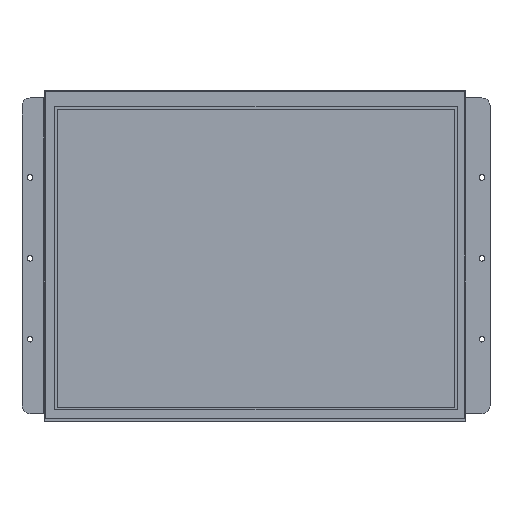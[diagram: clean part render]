
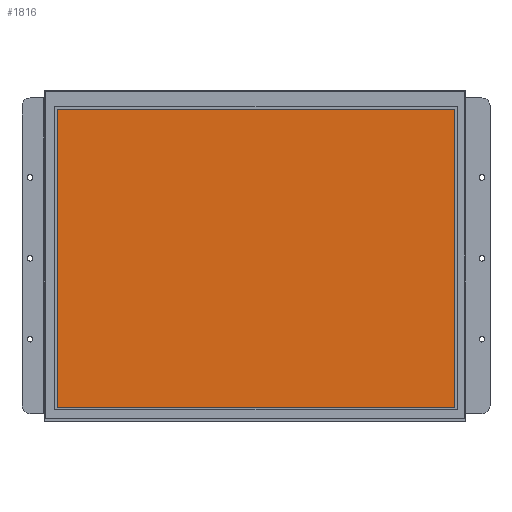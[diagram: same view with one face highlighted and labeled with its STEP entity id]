
A CAD part, top view. The second image highlights one B-rep face of the part: STEP entity #1816.
In plain terms, the highlighted planar face has unit normal (0, 0, 1).
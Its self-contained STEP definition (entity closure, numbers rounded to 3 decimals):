
#599=DIRECTION('',(1.,0.,0.));
#600=VECTOR('',#599,245.8);
#601=CARTESIAN_POINT('',(-122.9,92.15,8.));
#602=LINE('',#601,#600);
#611=DIRECTION('',(0.,-1.,0.));
#612=VECTOR('',#611,184.3);
#613=CARTESIAN_POINT('',(122.9,92.15,8.));
#614=LINE('',#613,#612);
#623=DIRECTION('',(1.,0.,0.));
#624=VECTOR('',#623,245.8);
#625=CARTESIAN_POINT('',(-122.9,-92.15,8.));
#626=LINE('',#625,#624);
#635=DIRECTION('',(0.,1.,0.));
#636=VECTOR('',#635,184.3);
#637=CARTESIAN_POINT('',(-122.9,-92.15,8.));
#638=LINE('',#637,#636);
#799=CARTESIAN_POINT('',(-122.9,92.15,8.));
#800=CARTESIAN_POINT('',(122.9,92.15,8.));
#801=VERTEX_POINT('',#799);
#802=VERTEX_POINT('',#800);
#803=CARTESIAN_POINT('',(122.9,-92.15,8.));
#804=VERTEX_POINT('',#803);
#805=CARTESIAN_POINT('',(-122.9,-92.15,8.));
#806=VERTEX_POINT('',#805);
#1805=CARTESIAN_POINT('',(-130.,-99.,8.));
#1806=DIRECTION('',(0.,0.,1.));
#1807=DIRECTION('',(1.,0.,0.));
#1808=AXIS2_PLACEMENT_3D('',#1805,#1806,#1807);
#1809=PLANE('',#1808);
#1810=ORIENTED_EDGE('',*,*,#1757,.T.);
#1811=ORIENTED_EDGE('',*,*,#1772,.T.);
#1812=ORIENTED_EDGE('',*,*,#1786,.F.);
#1813=ORIENTED_EDGE('',*,*,#1799,.T.);
#1814=EDGE_LOOP('',(#1810,#1811,#1812,#1813));
#1815=FACE_OUTER_BOUND('',#1814,.F.);
#1757=EDGE_CURVE('',#801,#802,#602,.T.);
#1772=EDGE_CURVE('',#802,#804,#614,.T.);
#1786=EDGE_CURVE('',#806,#804,#626,.T.);
#1799=EDGE_CURVE('',#806,#801,#638,.T.);
#1816=ADVANCED_FACE('',(#1815),#1809,.T.);
